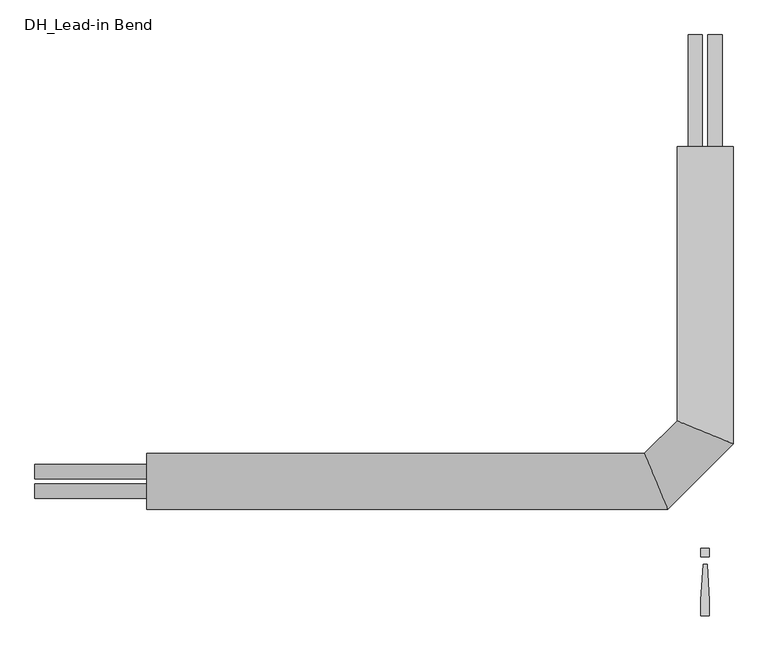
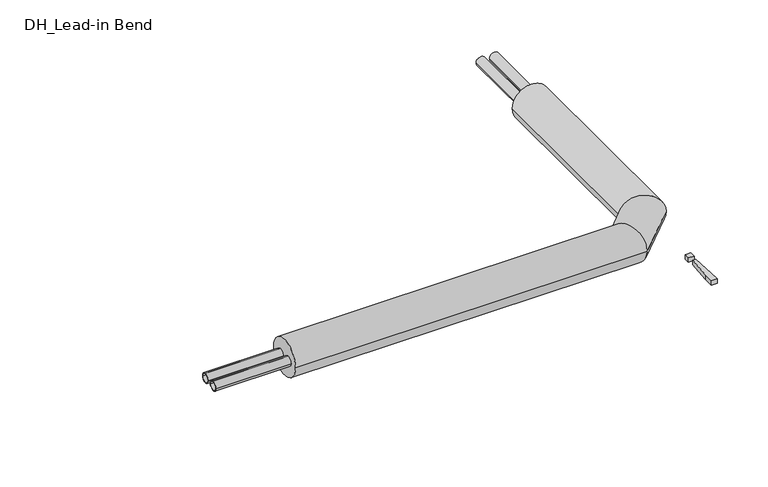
"""IFC4 building model written with IfcOpenShell, lengths in millimetres: pipe fitting geometry, DH_Lead-in Bend : INSULPEX DUO + 11 Heating Vertical."""

from ifc_helpers import new_model, si_unit, point, frame, frame_2d, origin, origin_with_axes, place, context, project, spatial, polyline, circle_curve, ellipse_curve, trimmed, segment, composite_curve, outline, extrude, source, transform, mapped, element, save
from ifc_brep_helpers import plane_surface, cylinder_surface, advanced_brep


def dh_lead_in_bend_f66b3f8e(model_context):
    return source(origin(), model_context, "Body", "SolidModel", [
        extrude(outline(composite_curve([segment(trimmed(circle_curve(frame_2d((-22.0, 0.0)), 16.0), [point((-6.0, 0.0))], [point((-38.0, 0.0))], False, "CARTESIAN"), True, "CONTINUOUS"), segment(trimmed(circle_curve(frame_2d((-22.0, 0.0)), 16.0), [point((-38.0, 0.0))], [point((-6.0, 0.0))], False, "CARTESIAN"), True, "CONTINUOUS")], self_intersect=False), holes=[composite_curve([segment(trimmed(circle_curve(frame_2d((-22.0, 0.0)), 13.1), [point((-8.9, 0.0))], [point((-35.1, 0.0))], True, "CARTESIAN"), True, "CONTINUOUS"), segment(trimmed(circle_curve(frame_2d((-22.0, 0.0)), 13.1), [point((-35.1, 0.0))], [point((-8.9, 0.0))], True, "CARTESIAN"), True, "CONTINUOUS")], self_intersect=False)]), frame((-1500.0, 0.0, 0.0), z_axis=(1.0, 0.0, 0.0), x_axis=(0.0, 1.0, 0.0)), (0.0, 0.0, 1.0), 250.0),
        advanced_brep(
        [(-1250.0, -62.5, 0.0), (-1250.0, 62.5, 0.0), (-84.1116524, -62.5, 0.0), (-135.8883476, 62.5, 0.0), (62.5, 750.0, 0.0), (-62.5, 750.0, 0.0), (-62.5, 135.8883476, 0.0), (62.5, 84.1116524, 0.0)],
        [
            (0, 1, circle_curve(frame((-1250.0, 0.0, 0.0), z_axis=(-1.0, 0.0, 0.0), x_axis=(0.0, 1.0, 0.0)), 62.5)),
            (1, 0, circle_curve(frame((-1250.0, 0.0, 0.0), z_axis=(-1.0, 0.0, 0.0), x_axis=(0.0, 1.0, 0.0)), 62.5)),
            (0, 2),
            (2, 3, ellipse_curve(frame((-110.0, 0.0, 0.0), z_axis=(-0.9238795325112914, -0.3826834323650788, 0.0), x_axis=(-0.38268343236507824, 0.9238795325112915, 0.0)), 67.6495125, 62.5)),
            (3, 1),
            (3, 2, ellipse_curve(frame((-110.0, 0.0, 0.0), z_axis=(-0.9238795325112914, -0.3826834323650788, 0.0), x_axis=(-0.38268343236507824, 0.9238795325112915, 0.0)), 67.6495125, 62.5)),
            (4, 5, circle_curve(frame((0.0, 750.0, 0.0), z_axis=(0.0, 1.0, 0.0), x_axis=(-1.0, 0.0, 0.0)), 62.5)),
            (5, 4, circle_curve(frame((0.0, 750.0, 0.0), z_axis=(0.0, 1.0, 0.0), x_axis=(-1.0, 0.0, 0.0)), 62.5)),
            (6, 7, ellipse_curve(frame((0.0, 110.0, 0.0), z_axis=(0.38268343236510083, 0.9238795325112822, 0.0), x_axis=(0.9238795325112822, -0.3826834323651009, 0.0)), 67.6495125, 62.5)),
            (7, 4),
            (5, 6),
            (7, 6, ellipse_curve(frame((0.0, 110.0, 0.0), z_axis=(0.38268343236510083, 0.9238795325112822, 0.0), x_axis=(0.9238795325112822, -0.3826834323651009, 0.0)), 67.6495125, 62.5)),
            (2, 7),
            (6, 3),
        ],
        [
            plane_surface(frame((-1250.0, 0.0, 0.0), z_axis=(-1.0, 0.0, 0.0), x_axis=(0.0, 0.0, 1.0))),
            cylinder_surface(frame((-1250.0, 0.0, 0.0), z_axis=(-1.0, 0.0, 0.0), x_axis=(0.0, 1.0, 0.0)), 62.5),
            plane_surface(frame((0.0, 750.0, 0.0), z_axis=(0.0, 1.0, 0.0), x_axis=(0.0, 0.0, 1.0))),
            cylinder_surface(frame((0.0, 110.0, 0.0), z_axis=(0.0, -1.0, 0.0), x_axis=(-1.0, 0.0, 0.0)), 62.5),
            cylinder_surface(frame((-110.0, 0.0, 0.0), z_axis=(-0.7071067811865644, -0.7071067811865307, 0.0), x_axis=(-0.7071067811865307, 0.7071067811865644, 0.0)), 62.5),
        ],
        [
            (0, [[1, 2]]),
            (1, [[-1, 3, 4, 5]]),
            (1, [[-2, -5, 6, -3]]),
            (2, [[7, 8]]),
            (3, [[9, 10, -8, 11]]),
            (3, [[12, -11, -7, -10]]),
            (4, [[-4, 13, -9, 14]]),
            (4, [[-6, -14, -12, -13]]),
        ],
    ),
        extrude(outline(composite_curve([segment(trimmed(circle_curve(frame_2d((0.0, -22.0)), 16.0), [point((0.0, -6.0))], [point((0.0, -38.0))], False, "CARTESIAN"), True, "CONTINUOUS"), segment(trimmed(circle_curve(frame_2d((0.0, -22.0)), 16.0), [point((0.0, -38.0))], [point((0.0, -6.0))], False, "CARTESIAN"), True, "CONTINUOUS")], self_intersect=False), holes=[composite_curve([segment(trimmed(circle_curve(frame_2d((0.0, -22.0)), 13.1), [point((0.0, -8.9))], [point((0.0, -35.1))], True, "CARTESIAN"), True, "CONTINUOUS"), segment(trimmed(circle_curve(frame_2d((0.0, -22.0)), 13.1), [point((0.0, -35.1))], [point((0.0, -8.9))], True, "CARTESIAN"), True, "CONTINUOUS")], self_intersect=False)]), frame((0.0, 750.0, 0.0), z_axis=(0.0, 1.0, 0.0), x_axis=(0.0, 0.0, 1.0)), (0.0, 0.0, 1.0), 250.0),
        extrude(outline(composite_curve([segment(trimmed(circle_curve(frame_2d((22.0, 0.0)), 16.0), [point((6.0, 0.0))], [point((38.0, 0.0))], False, "CARTESIAN"), True, "CONTINUOUS"), segment(trimmed(circle_curve(frame_2d((22.0, 0.0)), 16.0), [point((38.0, 0.0))], [point((6.0, 0.0))], False, "CARTESIAN"), True, "CONTINUOUS")], self_intersect=False), holes=[composite_curve([segment(trimmed(circle_curve(frame_2d((22.0, 0.0)), 13.1), [point((8.9, 0.0))], [point((35.1, 0.0))], True, "CARTESIAN"), True, "CONTINUOUS"), segment(trimmed(circle_curve(frame_2d((22.0, 0.0)), 13.1), [point((35.1, 0.0))], [point((8.9, 0.0))], True, "CARTESIAN"), True, "CONTINUOUS")], self_intersect=False)]), frame((-1500.0, 0.0, 0.0), z_axis=(1.0, 0.0, 0.0), x_axis=(0.0, 1.0, 0.0)), (0.0, 0.0, 1.0), 250.0),
        extrude(outline(composite_curve([segment(trimmed(circle_curve(frame_2d((0.0, 22.0)), 16.0), [point((0.0, 6.0))], [point((0.0, 38.0))], False, "CARTESIAN"), True, "CONTINUOUS"), segment(trimmed(circle_curve(frame_2d((0.0, 22.0)), 16.0), [point((0.0, 38.0))], [point((0.0, 6.0))], False, "CARTESIAN"), True, "CONTINUOUS")], self_intersect=False), holes=[composite_curve([segment(trimmed(circle_curve(frame_2d((0.0, 22.0)), 13.1), [point((0.0, 8.9))], [point((0.0, 35.1))], True, "CARTESIAN"), True, "CONTINUOUS"), segment(trimmed(circle_curve(frame_2d((0.0, 22.0)), 13.1), [point((0.0, 35.1))], [point((0.0, 8.9))], True, "CARTESIAN"), True, "CONTINUOUS")], self_intersect=False)]), frame((0.0, 750.0, 0.0), z_axis=(0.0, 1.0, 0.0), x_axis=(0.0, 0.0, 1.0)), (0.0, 0.0, 1.0), 250.0),
        extrude(outline(polyline([(4.7088895, -185.3166715), (9.4177791, -266.6553807), (9.4177791, -300.6844652), (-9.4177791, -300.6844652), (-9.4177791, -266.6553807), (-4.7088895, -185.3166715), (4.7088895, -185.3166715)])), origin_with_axes(), (0.0, 0.0, 1.0), 15.0),
        extrude(outline(polyline([(9.4177791, -150.0), (9.4177791, -168.8355582), (-9.4177791, -168.8355582), (-9.4177791, -150.0), (9.4177791, -150.0)])), origin_with_axes(), (0.0, 0.0, 1.0), 15.0),
    ])


if __name__ == "__main__":
    model = new_model("IFC4")
    model_context = context("Model", 3, world=origin())
    ifc_project = project(units=[si_unit("LENGTHUNIT", "METRE", prefix="MILLI")], contexts=[model_context])
    site = spatial("IfcSite", under=ifc_project)
    building = spatial("IfcBuilding", under=site)
    placement = place(None, origin())
    dh_lead_in_bend_shape = dh_lead_in_bend_f66b3f8e(model_context)
    element("IfcPipeFitting", 1, ObjectType="DH_Lead-in Bend : INSULPEX DUO + 11 Heating Vertical", at=placement, inside=building, context=model_context, shape_type="MappedRepresentation", body=[
        mapped(dh_lead_in_bend_shape, transform((0.0, 0.0, 0.0), x_axis=(1.0, 0.0, 0.0), y_axis=(0.0, 1.0, 0.0), z_axis=(0.0, 0.0, 1.0))),
    ])
    save(model, "model.ifc")
